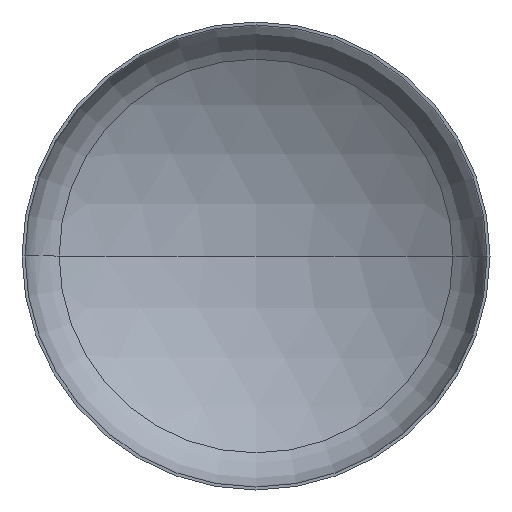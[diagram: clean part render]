
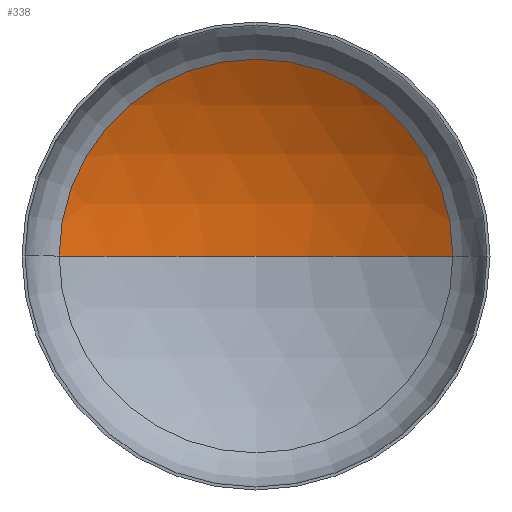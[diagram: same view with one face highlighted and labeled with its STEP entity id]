
A CAD part, front view. The second image highlights one B-rep face of the part: STEP entity #338.
In plain terms, the highlighted spherical face has radius 4000 mm.
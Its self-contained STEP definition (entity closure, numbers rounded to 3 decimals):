
#1 = AXIS2_PLACEMENT_3D ( 'NONE', #216, #237, #191 ) ;
#2 = DIRECTION ( 'NONE',  ( 0., -1., 0. ) ) ;
#6 = AXIS2_PLACEMENT_3D ( 'NONE', #174, #176, #107 ) ;
#11 = AXIS2_PLACEMENT_3D ( 'NONE', #71, #102, #106 ) ;
#12 = EDGE_LOOP ( 'NONE', ( #66, #53, #313 ) ) ;
#25 = VERTEX_POINT ( 'NONE', #279 ) ;
#43 = AXIS2_PLACEMENT_3D ( 'NONE', #355, #2, #215 ) ;
#53 = ORIENTED_EDGE ( 'NONE', *, *, #337, .T. ) ;
#66 = ORIENTED_EDGE ( 'NONE', *, *, #346, .F. ) ;
#71 = CARTESIAN_POINT ( 'NONE',  ( 0., -2647.671, 0. ) ) ;
#90 = EDGE_CURVE ( 'NONE', #110, #145, #232, .T. ) ;
#92 = CIRCLE ( 'NONE', #6, 4000. ) ;
#102 = DIRECTION ( 'NONE',  ( 0., 0., 1. ) ) ;
#106 = DIRECTION ( 'NONE',  ( 1., 0., 0. ) ) ;
#107 = DIRECTION ( 'NONE',  ( -1., 0., 0. ) ) ;
#110 = VERTEX_POINT ( 'NONE', #219 ) ;
#145 = VERTEX_POINT ( 'NONE', #196 ) ;
#174 = CARTESIAN_POINT ( 'NONE',  ( 0., -2647.671, 0. ) ) ;
#176 = DIRECTION ( 'NONE',  ( 0., 0., -1. ) ) ;
#191 = DIRECTION ( 'NONE',  ( -1., 0., 0. ) ) ;
#192 = SPHERICAL_SURFACE ( 'NONE', #1, 4000. ) ;
#196 = CARTESIAN_POINT ( 'NONE',  ( -2102.786, 755.018, 0. ) ) ;
#215 = DIRECTION ( 'NONE',  ( 1., 0., 0. ) ) ;
#216 = CARTESIAN_POINT ( 'NONE',  ( 0., -2647.671, 0. ) ) ;
#219 = CARTESIAN_POINT ( 'NONE',  ( 2102.786, 755.018, 0. ) ) ;
#232 = CIRCLE ( 'NONE', #43, 2102.786 ) ;
#237 = DIRECTION ( 'NONE',  ( 0., 0., -1. ) ) ;
#279 = CARTESIAN_POINT ( 'NONE',  ( 0., 1352.329, 0. ) ) ;
#313 = ORIENTED_EDGE ( 'NONE', *, *, #90, .T. ) ;
#337 = EDGE_CURVE ( 'NONE', #25, #110, #92, .T. ) ;
#338 = ADVANCED_FACE ( 'NONE', ( #380 ), #192, .F. ) ;
#346 = EDGE_CURVE ( 'NONE', #25, #145, #371, .T. ) ;
#355 = CARTESIAN_POINT ( 'NONE',  ( 0., 755.018, 0. ) ) ;
#371 = CIRCLE ( 'NONE', #11, 4000. ) ;
#380 = FACE_OUTER_BOUND ( 'NONE', #12, .T. ) ;
